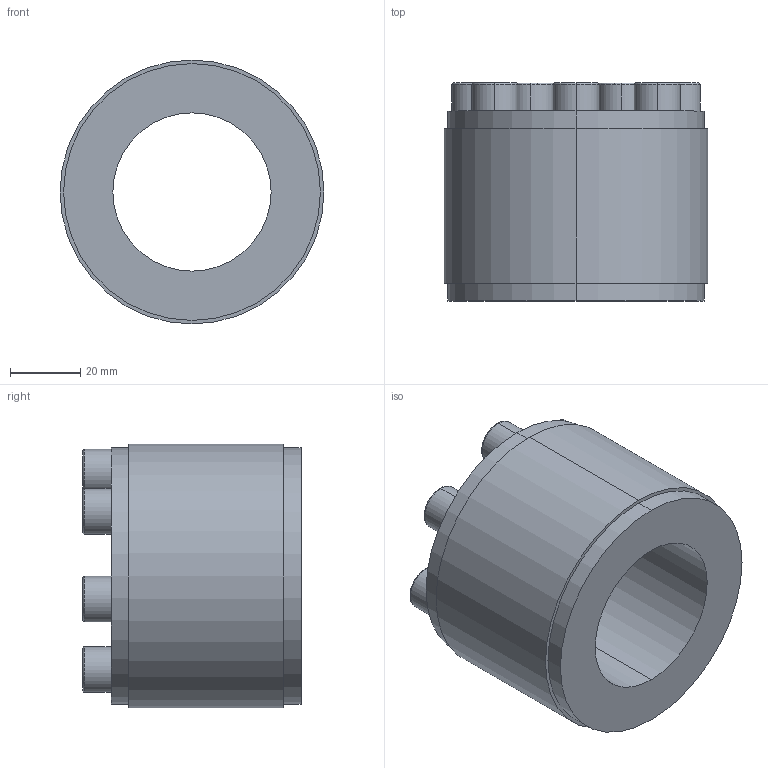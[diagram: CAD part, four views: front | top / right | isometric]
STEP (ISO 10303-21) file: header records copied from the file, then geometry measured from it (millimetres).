
FILE_DESCRIPTION (( 'STEP AP203' ), '1' );
FILE_NAME ('PL-D1 45-75.STEP', '2021-10-23T00:11:56', ( '' ), ( '' ), 'SwSTEP 2.0', 'SolidWorks 2018', '' );
FILE_SCHEMA (( 'CONFIG_CONTROL_DESIGN' ));
Length unit declared in the file: millimetre
Products named in the file (1): PL-D1 45-75
Bounding box: 75 x 62 x 75 mm (x, y, z)
Volume: 156901.6 mm3; surface area: 28756.5 mm2
Topology: 1 solids, 1 shells, 96 faces, 220 edges, 142 vertices
Faces by surface type: plane 60, cylinder 22, torus 14
Entity records: 2785 total; most frequent: DIRECTION 486, CARTESIAN_POINT 459, ORIENTED_EDGE 440, EDGE_CURVE 220, AXIS2_PLACEMENT_3D 169, LINE 148, VECTOR 148, VERTEX_POINT 142
